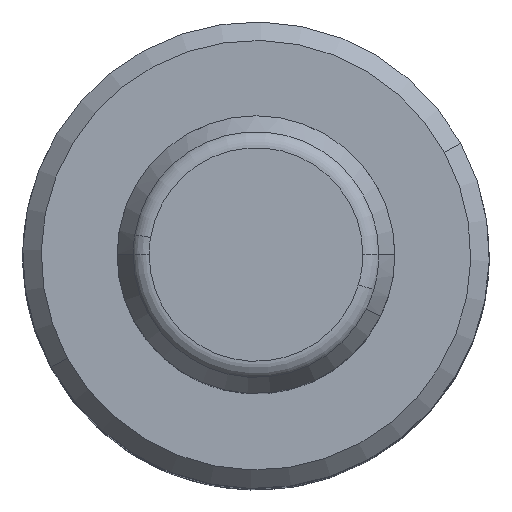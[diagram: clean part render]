
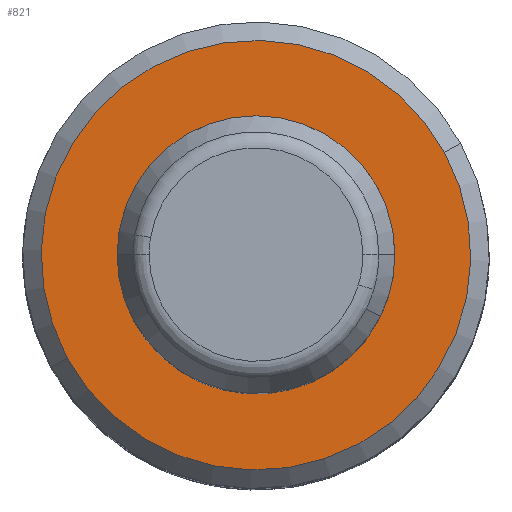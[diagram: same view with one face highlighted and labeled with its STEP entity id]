
A CAD part, top view. The second image highlights one B-rep face of the part: STEP entity #821.
In plain terms, the highlighted planar face has unit normal (0, 0, 1).
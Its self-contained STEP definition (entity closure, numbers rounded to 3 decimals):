
#769=CARTESIAN_POINT('Axis2P3D Location',(0.,0.,48.)) ;
#773=CARTESIAN_POINT('Vertex',(10.18,5.561,48.)) ;
#775=CARTESIAN_POINT('Vertex',(-10.18,-5.561,48.)) ;
#800=CARTESIAN_POINT('Axis2P3D Location',(0.,0.,48.)) ;
#812=CARTESIAN_POINT('Axis2P3D Location',(11.6,0.,48.)) ;
#770=DIRECTION('Axis2P3D Direction',(0.,0.,-1.)) ;
#801=DIRECTION('Axis2P3D Direction',(0.,0.,-1.)) ;
#813=DIRECTION('Axis2P3D Direction',(0.,0.,1.)) ;
#814=DIRECTION('Axis2P3D XDirection',(1.,0.,0.)) ;
#771=AXIS2_PLACEMENT_3D('Circle Axis2P3D',#769,#770,$) ;
#802=AXIS2_PLACEMENT_3D('Circle Axis2P3D',#800,#801,$) ;
#815=AXIS2_PLACEMENT_3D('Plane Axis2P3D',#812,#813,#814) ;
#818=ORIENTED_EDGE('',*,*,#777,.T.) ;
#819=ORIENTED_EDGE('',*,*,#804,.T.) ;
#821=ADVANCED_FACE('',(#820),#816,.T.) ;
#772=CIRCLE('generated circle',#771,11.6) ;
#803=CIRCLE('generated circle',#802,11.6) ;
#777=EDGE_CURVE('',#774,#776,#772,.F.) ;
#804=EDGE_CURVE('',#776,#774,#803,.F.) ;
#817=EDGE_LOOP('',(#818,#819)) ;
#820=FACE_OUTER_BOUND('',#817,.T.) ;
#816=PLANE('Plane',#815) ;
#774=VERTEX_POINT('',#773) ;
#776=VERTEX_POINT('',#775) ;
